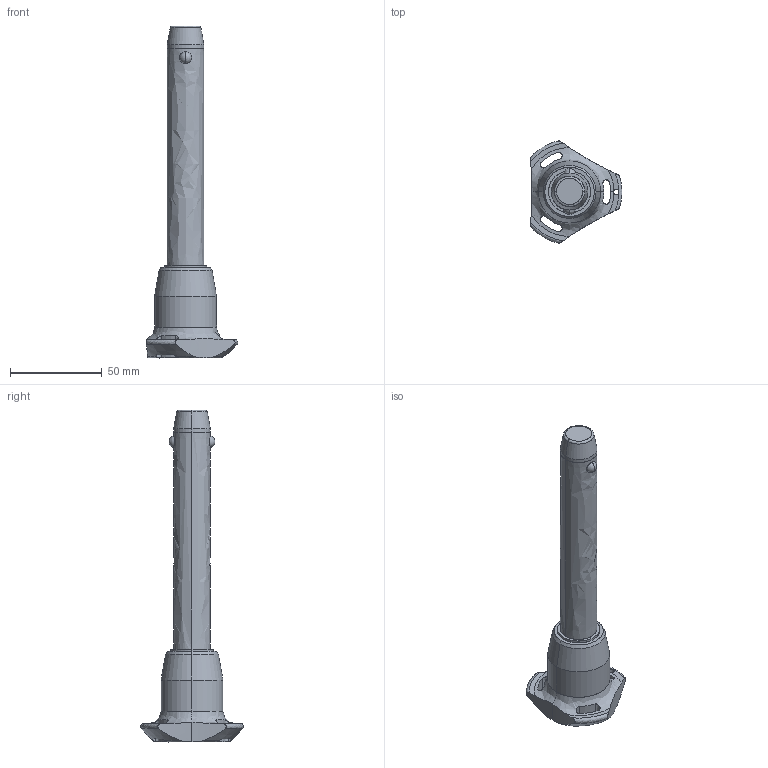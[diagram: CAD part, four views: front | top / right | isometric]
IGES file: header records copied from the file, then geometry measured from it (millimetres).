
Start section: SolidWorks IGES file using analytic representation for surfaces
Global section: file name: C:\Users\ianosborn\Desktop\QR1736_v2\QR1736_v2_20251115_IGES\QR1736.M20-110-T.igs; native system: SolidWorks 2019; preprocessor: SolidWorks 2019; author: IanOsborn; date: 251113.121302; units: millimetre
Bounding box: 50.03 x 56.02 x 181.2 mm (x, y, z)
Surface area: 17879.2 mm2 (no closed solid volume)
Topology: 0 solids, 0 shells, 68 faces, 1382 edges, 1378 vertices
Faces by surface type: revolution 52, bspline 16
